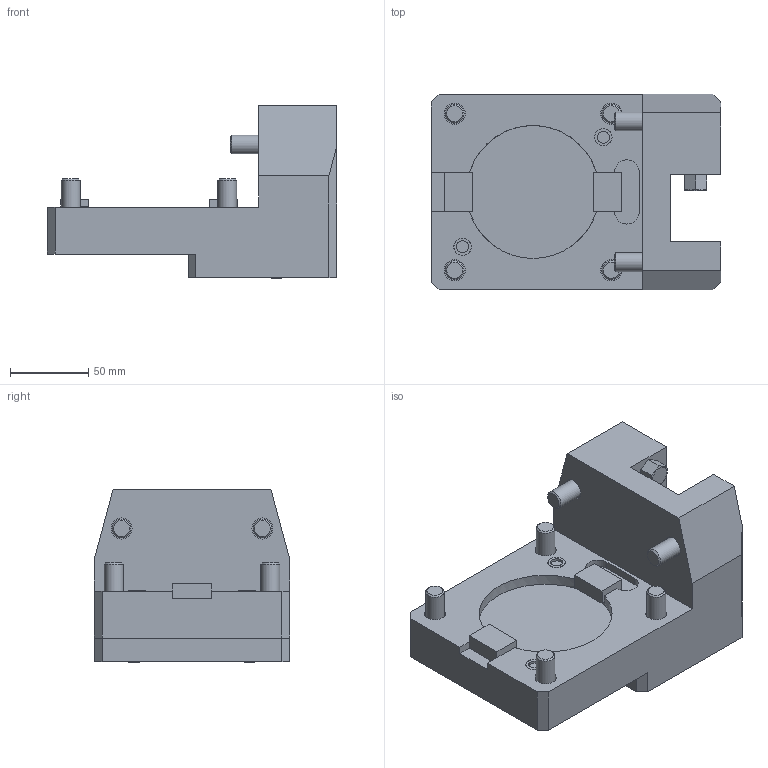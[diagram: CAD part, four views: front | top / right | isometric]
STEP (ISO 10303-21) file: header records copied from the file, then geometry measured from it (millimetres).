
FILE_DESCRIPTION(/* description */ (''),/* implementation_level */ '2;1');
FILE_NAME(/* name */ '198322-UNI',/* time_stamp */ '2022-02-14T15:33:26+01:00',/* author */ (''),/* organization */ (''),/* preprocessor_version */ 'ST-DEVELOPER v16.5',/* originating_system */ 'HiCAD 2017 2201.0 Build 268',/* authorisation */ '');
FILE_SCHEMA (('AUTOMOTIVE_DESIGN { 1 0 10303 214 1 1 1 1 }'));
Length unit declared in the file: millimetre
Products named in the file (2): Root; Teil
Assembly tree (1 placements, depth 2):
  Root
    Teil
Bounding box: 185 x 125 x 110.7 mm (x, y, z)
Volume: 1060719.3 mm3; surface area: 128870 mm2
Topology: 1 solids, 1 shells, 225 faces, 521 edges, 335 vertices
Faces by surface type: plane 167, cylinder 35, cone 15, torus 6, sphere 2
Full cylindrical faces by diameter (mm): 5 x2, 7.65 x2, 11.01 x2, 11.1 x2, 12 x6, 13.5 x6, 18 x6, 20 x6, 85 x1
Entity records: 10243 total; most frequent: DIRECTION 1038, CARTESIAN_POINT 977, PRESENTATION_STYLE_ASSIGNMENT 875, COLOUR_RGB 875, DRAUGHTING_PRE_DEFINED_CURVE_FONT 874, CURVE_STYLE 874, OVER_RIDING_STYLED_ITEM 874, ORIENTED_EDGE 874
